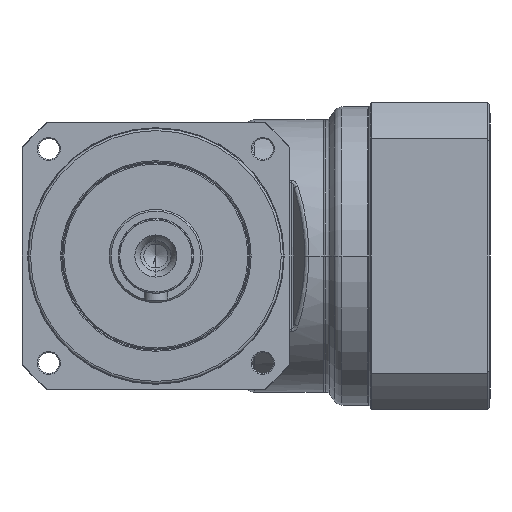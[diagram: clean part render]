
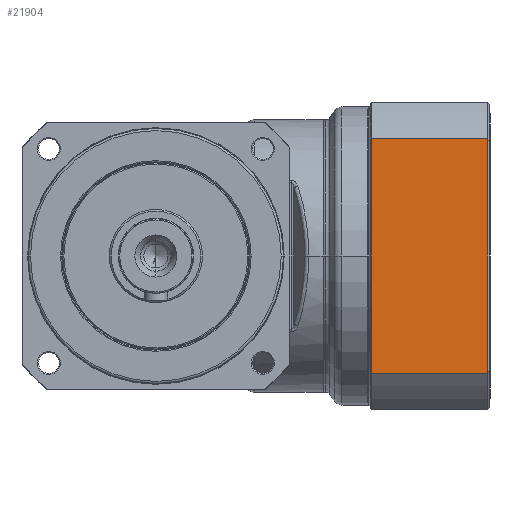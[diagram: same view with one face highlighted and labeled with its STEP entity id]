
A CAD part, left-side view. The second image highlights one B-rep face of the part: STEP entity #21904.
In plain terms, the highlighted planar face has unit normal (-1, 0, 0) as drawn and (0, -1, 0) by its records, which use the part's own axes.
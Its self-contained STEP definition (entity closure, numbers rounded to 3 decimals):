
#20667=DIRECTION('',(1.,0.,0.));
#20668=VECTOR('',#20667,100.658);
#20669=CARTESIAN_POINT('',(-50.329,-66.,53.));
#20670=LINE('',#20669,#20668);
#20671=DIRECTION('',(0.,0.,1.));
#20672=VECTOR('',#20671,50.1);
#20673=CARTESIAN_POINT('',(50.329,-66.,
2.9));
#20674=LINE('',#20673,#20672);
#20675=DIRECTION('',(1.,0.,0.));
#20676=VECTOR('',#20675,100.658);
#20677=CARTESIAN_POINT('',(-50.329,-66.,
2.9));
#20678=LINE('',#20677,#20676);
#20679=DIRECTION('',(0.,0.,1.));
#20680=VECTOR('',#20679,50.1);
#20681=CARTESIAN_POINT('',(-50.329,-66.,
2.9));
#20682=LINE('',#20681,#20680);
#20688=CARTESIAN_POINT('',(50.329,-66.,53.));
#21003=CARTESIAN_POINT('',(-50.329,-66.,2.9));
#21005=VERTEX_POINT('',#21003);
#21008=CARTESIAN_POINT('',(50.329,-66.,
2.9));
#21009=VERTEX_POINT('',#21008);
#21055=CARTESIAN_POINT('',(-50.329,-66.,53.));
#21057=VERTEX_POINT('',#21055);
#21065=VERTEX_POINT('',#20688);
#21892=CARTESIAN_POINT('',(-66.,-66.,0.));
#21893=DIRECTION('',(0.,-1.,0.));
#21894=DIRECTION('',(1.,0.,0.));
#21895=AXIS2_PLACEMENT_3D('',#21892,#21893,#21894);
#21896=PLANE('',#21895);
#21898=ORIENTED_EDGE('',*,*,#21897,.T.);
#21899=ORIENTED_EDGE('',*,*,#21808,.F.);
#21900=ORIENTED_EDGE('',*,*,#21886,.F.);
#21901=ORIENTED_EDGE('',*,*,#21819,.T.);
#21902=EDGE_LOOP('',(#21898,#21899,#21900,#21901));
#21903=FACE_OUTER_BOUND('',#21902,.F.);
#21904=ADVANCED_FACE('',(#21903),#21896,.T.);
#21808=EDGE_CURVE('',#21009,#21065,#20674,.T.);
#21819=EDGE_CURVE('',#21005,#21057,#20682,.T.);
#21886=EDGE_CURVE('',#21005,#21009,#20678,.T.);
#21897=EDGE_CURVE('',#21057,#21065,#20670,.T.);
